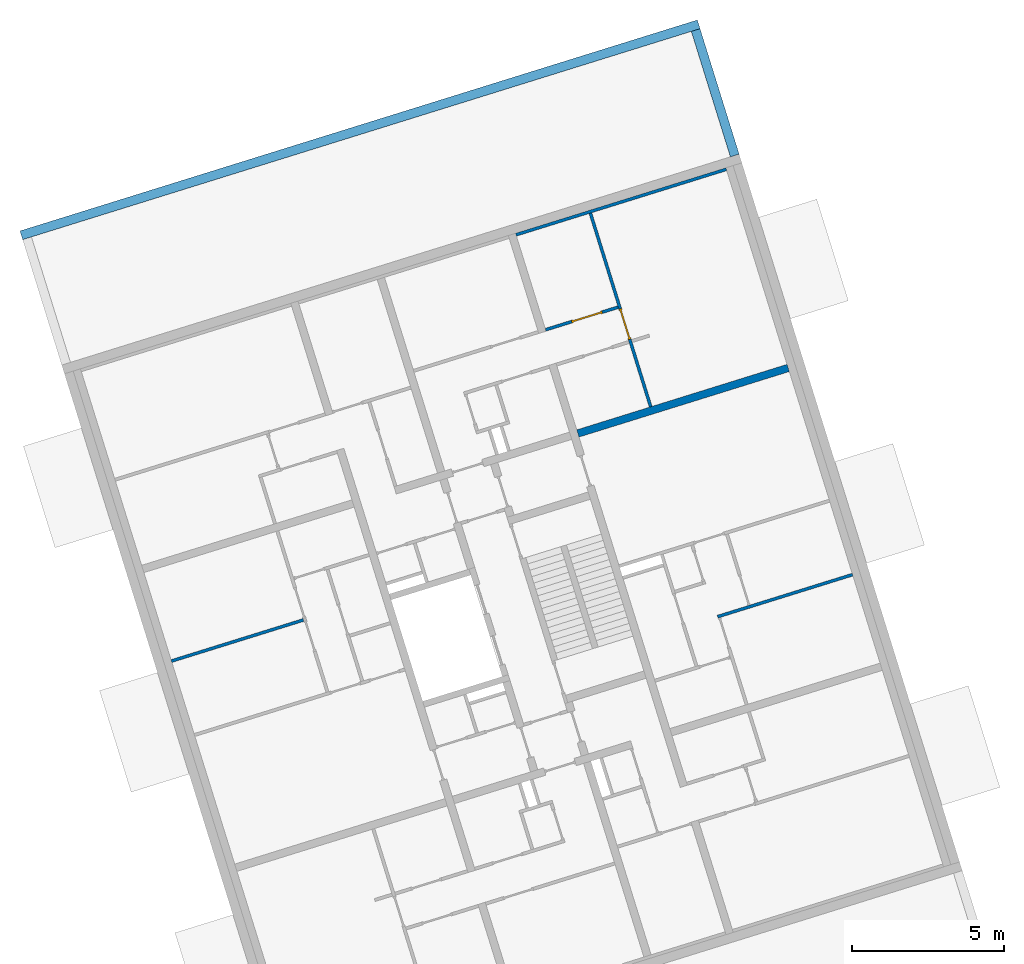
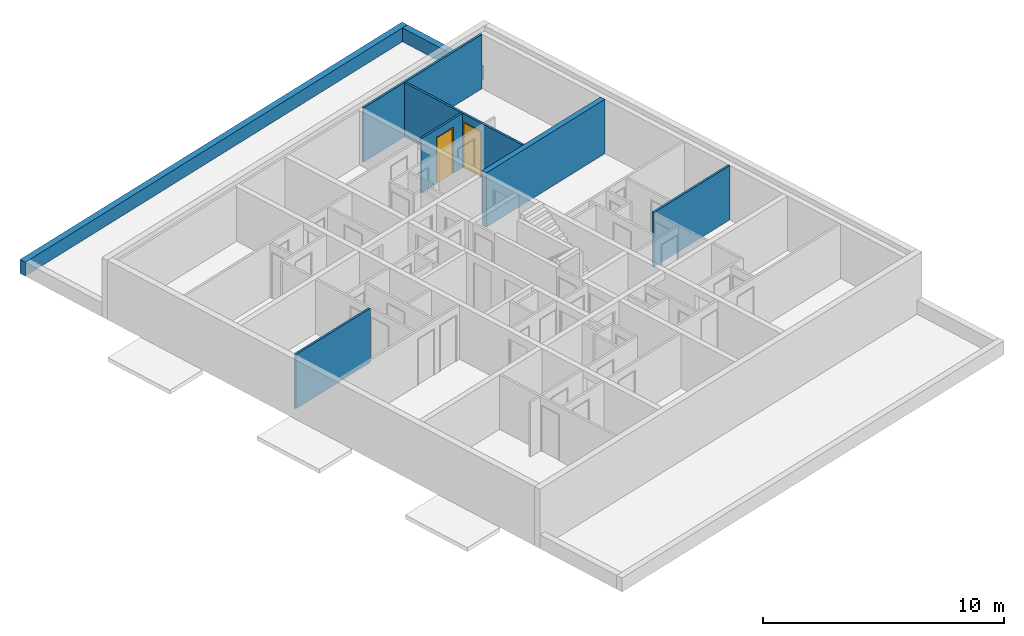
# One storey, part 7 of 9: 8 walls, 2 doors, 5 openings.
"""IFC4 building model written with IfcOpenShell, lengths in metres."""

import ifcopenshell
import ifcopenshell.guid

model = None  # the IFC model being written
_history = None  # IfcOwnerHistory: only IFC2X3 demands one
_inside = {}  # id of a spatial element -> (the spatial element, [elements in it])
_under = {}  # id of a project, library or spatial element -> (it, [spatial elements below it])
_declared = {}  # id of a project -> (the project, [libraries it declares])
_typed = {}  # id of a type object -> (the type object, [elements of that type])
_made_of = {}  # id of a material, layer set ... -> (it, [elements and type objects made of it])


def new_model(schema):
    """Start an empty IFC model of exactly this schema.

    Asked for "IFC4X3", IfcOpenShell would pick the latest addendum, in which some entities
    have other attributes; the version numbers below select the first issue.
    IFC2X3 requires an IfcOwnerHistory on every rooted entity: one is made here for all.
    """
    global model, _history
    if schema == "IFC4X3":
        model = ifcopenshell.file(schema_version=(4, 3, 0, 0))
    else:
        model = ifcopenshell.file(schema=schema)
    _inside.clear()
    _under.clear()
    _declared.clear()
    _typed.clear()
    _made_of.clear()
    _history = None
    if model.schema == "IFC2X3":
        org = make("IfcOrganization", Name="unknown")
        user = make(
            "IfcPersonAndOrganization",
            ThePerson=make("IfcPerson", FamilyName="unknown"),
            TheOrganization=org,
        )
        app = make(
            "IfcApplication",
            ApplicationDeveloper=org,
            Version="unknown",
            ApplicationFullName="unknown",
            ApplicationIdentifier="unknown",
        )
        _history = make(
            "IfcOwnerHistory",
            OwningUser=user,
            OwningApplication=app,
            ChangeAction="ADDED",
            CreationDate=0,
        )
    return model


def make(cls, **values):
    """One entity of the class cls with the attributes given. An attribute that is None is left unset."""
    return model.create_entity(
        cls, **{name: value for name, value in values.items() if value is not None}
    )


def entity(cls, *values):
    """Any entity or typed value of the class cls, its attributes in the order of the schema. None: left unset."""
    e = model.create_entity(cls)
    for i, value in enumerate(values):
        if value is not None:
            e[i] = value
    return e


def rooted(cls, **values):
    """An entity with a GlobalId (a new one), such as an element, a storey or a relation."""
    return make(cls, GlobalId=ifcopenshell.guid.new(), OwnerHistory=_history, **values)


def si_unit(unit_type, name, prefix=None):
    """IfcSIUnit, for example si_unit("LENGTHUNIT", "METRE", prefix="MILLI")."""
    return make("IfcSIUnit", UnitType=unit_type, Prefix=prefix, Name=name)


def converted_unit(unit_type, name, factor, base, dimensions=None, offset=None):
    """IfcConversionBasedUnit, such as the inch: factor (a typed value) times the base unit."""
    return make(
        "IfcConversionBasedUnit"
        if offset is None
        else "IfcConversionBasedUnitWithOffset",
        ConversionOffset=offset,
        Dimensions=None
        if dimensions is None
        else entity("IfcDimensionalExponents", *dimensions),
        UnitType=unit_type,
        Name=name,
        ConversionFactor=make(
            "IfcMeasureWithUnit", ValueComponent=factor, UnitComponent=base
        ),
    )


def assignment(units):
    """IfcUnitAssignment: the units of a project."""
    return None if units is None else make("IfcUnitAssignment", Units=units)


def point(xyz):
    """IfcCartesianPoint."""
    return None if xyz is None else make("IfcCartesianPoint", Coordinates=xyz)


def direction(xyz):
    """IfcDirection."""
    return None if xyz is None else make("IfcDirection", DirectionRatios=xyz)


def frame(location, z_axis=None, x_axis=None):
    """IfcAxis2Placement3D, a coordinate frame: its origin and axes. An axis left out is left unset."""
    return make(
        "IfcAxis2Placement3D",
        Location=point(location),
        Axis=direction(z_axis),
        RefDirection=direction(x_axis),
    )


def origin():
    """The frame at (0, 0, 0) with its axes left unset."""
    return frame((0.0, 0.0, 0.0))


def place(relative_to, where):
    """IfcLocalPlacement: puts the frame where relative to a parent placement (None: the world)."""
    return make(
        "IfcLocalPlacement", PlacementRelTo=relative_to, RelativePlacement=where
    )


def context(
    kind, dimensions, precision=None, world=None, true_north=None, identifier=None
):
    """IfcGeometricRepresentationContext, for example the 3D "Model" context."""
    return make(
        "IfcGeometricRepresentationContext",
        ContextIdentifier=identifier,
        ContextType=kind,
        CoordinateSpaceDimension=dimensions,
        Precision=precision,
        WorldCoordinateSystem=world,
        TrueNorth=true_north,
    )


def subcontext(parent, identifier, kind, view, scale=None):
    """IfcGeometricRepresentationSubContext, for example "Body" below "Model"."""
    return make(
        "IfcGeometricRepresentationSubContext",
        ContextIdentifier=identifier,
        ContextType=kind,
        ParentContext=parent,
        TargetScale=scale,
        TargetView=view,
    )


def project(units=None, contexts=None):
    """IfcProject with its units and contexts."""
    return rooted(
        "IfcProject",
        Name="project",
        RepresentationContexts=contexts,
        UnitsInContext=assignment(units),
    )


def spatial(cls, under=None, at=None, **own):
    """A site, building, storey or space (cls), placed at a placement, below another one or the project."""
    s = rooted(cls, ObjectPlacement=at, **own)
    if under is not None:
        _under.setdefault(under.id(), (under, []))[1].append(s)
    return s


def point_list(points):
    """IfcCartesianPointList2D or 3D."""
    cls = (
        "IfcCartesianPointList2D" if len(points[0]) == 2 else "IfcCartesianPointList3D"
    )
    return make(cls, CoordList=points)


def indexed_curve(points, segments=None, self_intersect=None):
    """IfcIndexedPolyCurve: lines and arcs through numbered points (the first is 1)."""
    return make(
        "IfcIndexedPolyCurve",
        Points=point_list(points),
        Segments=segments,
        SelfIntersect=self_intersect,
    )


def outline(outer, holes=None, kind="AREA"):
    """IfcArbitraryClosedProfileDef: a profile drawn as a closed curve; with holes, ...WithVoids."""
    if holes is None:
        return make("IfcArbitraryClosedProfileDef", ProfileType=kind, OuterCurve=outer)
    return make(
        "IfcArbitraryProfileDefWithVoids",
        ProfileType=kind,
        OuterCurve=outer,
        InnerCurves=holes,
    )


def extrude(swept, where, along, depth):
    """IfcExtrudedAreaSolid: the profile swept, set in the frame where, extruded along a direction by depth."""
    return make(
        "IfcExtrudedAreaSolid",
        SweptArea=swept,
        Position=where,
        ExtrudedDirection=direction(along),
        Depth=depth,
    )


def polygons(points, faces, closed=None, point_numbers=None):
    """IfcPolygonalFaceSet: a face is its outer loop, then its inner loops; points numbered from 1."""
    made = []
    for loops in faces:
        if len(loops) == 1:
            made.append(make("IfcIndexedPolygonalFace", CoordIndex=loops[0]))
        else:
            made.append(
                make(
                    "IfcIndexedPolygonalFaceWithVoids",
                    CoordIndex=loops[0],
                    InnerCoordIndices=loops[1:],
                )
            )
    return make(
        "IfcPolygonalFaceSet",
        Coordinates=point_list(points),
        Closed=closed,
        Faces=made,
        PnIndex=point_numbers,
    )


def shape(context_of_items, identifier, shape_type, items):
    """IfcShapeRepresentation: the items that make up one representation, for example the "Body"."""
    return make(
        "IfcShapeRepresentation",
        ContextOfItems=context_of_items,
        RepresentationIdentifier=identifier,
        RepresentationType=shape_type,
        Items=items,
    )


def source(mapping_origin, context_of_items, identifier, shape_type, items):
    """IfcRepresentationMap: a shape defined once, which mapped items show again and again."""
    return make(
        "IfcRepresentationMap",
        MappingOrigin=mapping_origin,
        MappedRepresentation=shape(context_of_items, identifier, shape_type, items),
    )


def transform(
    local_origin,
    x_axis=None,
    y_axis=None,
    z_axis=None,
    scale=None,
    scale2=None,
    scale3=None,
    uniform=True,
):
    """IfcCartesianTransformationOperator3D, or its non-uniform kind. x_axis, y_axis, z_axis: its Axis1, 2, 3."""
    if uniform:
        return make(
            "IfcCartesianTransformationOperator3D",
            Axis1=direction(x_axis),
            Axis2=direction(y_axis),
            LocalOrigin=point(local_origin),
            Scale=scale,
            Axis3=direction(z_axis),
        )
    return make(
        "IfcCartesianTransformationOperator3DnonUniform",
        Axis1=direction(x_axis),
        Axis2=direction(y_axis),
        LocalOrigin=point(local_origin),
        Scale=scale,
        Axis3=direction(z_axis),
        Scale2=scale2,
        Scale3=scale3,
    )


def mapped(mapping_source, mapping_target):
    """IfcMappedItem: shows the shape of a source again, moved by a transform."""
    return make(
        "IfcMappedItem", MappingSource=mapping_source, MappingTarget=mapping_target
    )


def material(Name=None, Category=None):
    """IfcMaterial."""
    return make("IfcMaterial", Name=Name, Category=Category)


def constituent(of_material, Name=None, Category=None, fraction=None):
    """IfcMaterialConstituent: one of the materials an element consists of."""
    return make(
        "IfcMaterialConstituent",
        Name=Name,
        Material=of_material,
        Fraction=fraction,
        Category=Category,
    )


def constituent_set(constituents=None, Name=None):
    """IfcMaterialConstituentSet."""
    return make(
        "IfcMaterialConstituentSet", Name=Name, MaterialConstituents=constituents
    )


def made_of(thing, what):
    """Note that an element or type object is made of a material, layer set ...; save() writes the relation."""
    if what is not None:
        _made_of.setdefault(what.id(), (what, []))[1].append(thing)
    return thing


def type_object(cls, material=None, **own):
    """A type object (cls), such as IfcWallType, which elements share."""
    return made_of(rooted(cls, **own), material)


def type_shapes(of_type, sources):
    """Give a type object the sources (RepresentationMaps) that its elements show as mapped items."""
    of_type.RepresentationMaps = sources


def element(
    cls,
    number,
    at=None,
    inside=None,
    cuts=None,
    type_object=None,
    material=None,
    context=None,
    identifier="Body",
    shape_type=None,
    held_by="IfcProductDefinitionShape",
    body=None,
    shapes=None,
    **own,
):
    """One element of the class cls, such as IfcWall. Its Tag is "e" and its number.

    at: its placement. inside: the storey or other place that contains it. cuts: it is an
    opening in that element (IfcRelVoidsElement). A single representation is given by context,
    identifier, shape_type and body (its items); several are given by shapes. held_by: the class
    of the entity that holds the representations. save() writes the other relations.
    """
    e = rooted(cls, Tag="e%d" % number, ObjectPlacement=at, **own)
    if body is not None:
        shapes = [shape(context, identifier, shape_type, body)]
    if shapes is not None:
        e.Representation = make(held_by, Representations=shapes)
    if inside is not None:
        _inside.setdefault(inside.id(), (inside, []))[1].append(e)
    if cuts is not None:
        rooted(
            "IfcRelVoidsElement", RelatingBuildingElement=cuts, RelatedOpeningElement=e
        )
    if type_object is not None:
        _typed.setdefault(type_object.id(), (type_object, []))[1].append(e)
    return made_of(e, material)


def fill(opening, filler):
    """IfcRelFillsElement: the door or window that sits in an opening."""
    return rooted(
        "IfcRelFillsElement",
        RelatingOpeningElement=opening,
        RelatedBuildingElement=filler,
    )


def aggregate(whole, parts):
    """IfcRelAggregates: a whole, such as a stair, and the parts it consists of."""
    return rooted("IfcRelAggregates", RelatingObject=whole, RelatedObjects=parts)


def save(model, path):
    """Write the relations noted so far, then the file.

    IfcRelAggregates (storeys below a building ...), IfcRelContainedInSpatialStructure (elements
    in a storey), IfcRelDefinesByType, IfcRelAssociatesMaterial and IfcRelDeclares: one each for
    every whole, place, type object, material and project.
    """
    for whole, parts in _under.values():
        aggregate(whole, parts)
    for where, things in _inside.values():
        rooted(
            "IfcRelContainedInSpatialStructure",
            RelatedElements=things,
            RelatingStructure=where,
        )
    for kind, things in _typed.values():
        rooted("IfcRelDefinesByType", RelatedObjects=things, RelatingType=kind)
    for what, things in _made_of.values():
        rooted("IfcRelAssociatesMaterial", RelatedObjects=things, RelatingMaterial=what)
    for by, libraries in _declared.values():
        rooted("IfcRelDeclares", RelatingContext=by, RelatedDefinitions=libraries)
    model.write(path)


model = new_model("IFC4")

# Units and contexts
model_context = context("Model", 3, precision=1e-05, world=origin(), true_north=direction((6.12323399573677e-17, 1.0)))
body_context = subcontext(model_context, "Body", "Model", "MODEL_VIEW")
ifc_project = project(units=[si_unit("LENGTHUNIT", "METRE"), si_unit("AREAUNIT", "SQUARE_METRE"), si_unit("VOLUMEUNIT", "CUBIC_METRE"), converted_unit("PLANEANGLEUNIT", "DEGREE", entity("IfcPlaneAngleMeasure", 0.0174532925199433), si_unit("PLANEANGLEUNIT", "RADIAN"), dimensions=[0, 0, 0, 0, 0, 0, 0])], contexts=[model_context])

# Site, building, storey
site_placement = place(None, frame((13.1347999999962, 11.9886000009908, 0.0), z_axis=(0.0, 0.0, 1.0), x_axis=(0.954770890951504, 0.297342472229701, 0.0)))
site = spatial("IfcSite", under=ifc_project, at=site_placement, Name="Schiehaven", CompositionType="ELEMENT")
building_placement = place(site_placement, origin())
building = spatial("IfcBuilding", under=site, at=building_placement, Name="VORM huis", CompositionType="ELEMENT")
storey_placement = place(building_placement, frame((0.0, 0.0, 6.9)))
storey = spatial("IfcBuildingStorey", under=building, at=storey_placement, Name="02 tweede verdieping", CompositionType="ELEMENT", Elevation=6.9)

# Walls
ifc_material_1 = material(Name="ntb_ntb_ntb", Category="Miscellaneous")
wall_type_1 = type_object("IfcWallType", Name="Basic Wall:21_WA_gevel_binnenspouwwand 100mm_gen", PredefinedType="STANDARD")
wall_1_placement = place(storey_placement, frame((20.1250000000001, 29.05, 0.0)))
element("IfcWall", 1, at=wall_1_placement, inside=storey, type_object=wall_type_1, material=ifc_material_1, Name="Binnenspouwblad", ObjectType="Wand", PredefinedType="NOTDEFINED", context=body_context, shape_type="SweptSolid", body=[
    extrude(outline(indexed_curve([(7.24999999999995, 0.0500000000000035), (-1.62265042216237e-16, 0.0500000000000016), (1.62265042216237e-16, -0.0500000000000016), (7.24999999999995, -0.0499999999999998), (7.24999999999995, 0.0500000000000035)], self_intersect=False)), origin(), (0.0, 0.0, 1.0), 2.75),
])
wall_type_2 = type_object("IfcWallType", Name="Basic Wall: 300mm_gen", PredefinedType="STANDARD")
wall_2_placement = place(storey_placement, frame((4.57500000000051, 33.8749999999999, 0.0)))
element("IfcWall", 2, at=wall_2_placement, inside=storey, type_object=wall_type_2, material=ifc_material_1, Name="Gevelwand", ObjectType="Wand", PredefinedType="NOTDEFINED", context=body_context, shape_type="SweptSolid", body=[
    extrude(outline(indexed_curve([(23.3499999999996, 0.149999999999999), (6.5332653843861e-17, 0.150000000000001), (-6.5332653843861e-17, -0.150000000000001), (23.3499999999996, -0.150000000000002), (23.3499999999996, 0.149999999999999)], self_intersect=False)), origin(), (0.0, 0.0, 1.0), 0.700000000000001),
])
wall_3_placement = place(storey_placement, frame((27.7750000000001, 33.7249999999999, 0.0), z_axis=(0.0, 0.0, 1.0), x_axis=(0.0, -1.0, 0.0)))
element("IfcWall", 3, at=wall_3_placement, inside=storey, type_object=wall_type_2, material=ifc_material_1, Name="Gevelwand", ObjectType="Wand", PredefinedType="NOTDEFINED", context=body_context, shape_type="SweptSolid", body=[
    extrude(outline(indexed_curve([(4.32499999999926, 0.150000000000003), (3.67232742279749e-16, 0.150000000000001), (-3.67232742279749e-16, -0.150000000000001), (4.32499999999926, -0.149999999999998), (4.32499999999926, 0.150000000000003)], self_intersect=False)), origin(), (0.0, 0.0, 1.0), 0.700000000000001),
])
wall_type_3 = type_object("IfcWallType", Name="Basic Wall:22_WA_afbouw_binnenwand 250mm_gen", PredefinedType="STANDARD")
wall_4_placement = place(storey_placement, frame((20.1250000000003, 22.1999999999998, 0.0)))
element("IfcWall", 4, at=wall_4_placement, inside=storey, type_object=wall_type_3, material=ifc_material_1, Name="Binnenwand", ObjectType="Wand", PredefinedType="NOTDEFINED", context=body_context, shape_type="SweptSolid", body=[
    extrude(outline(indexed_curve([(7.24999999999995, 0.125000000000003), (-1.80881749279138e-15, 0.125000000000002), (1.80881749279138e-15, -0.125000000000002), (7.24999999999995, -0.125000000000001), (7.24999999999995, 0.125000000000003)], self_intersect=False)), origin(), (0.0, 0.0, 1.0), 2.75),
])

# Wall, opening, door
wall_type_4 = type_object("IfcWallType", Name="Basic Wall:22_WA_afbouw_binnenwand 100mm_gen", PredefinedType="STANDARD")
wall_5_placement = place(storey_placement, frame((20.1250000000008, 25.7750000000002, 0.0)))
wall_5 = element("IfcWall", 5, at=wall_5_placement, inside=storey, type_object=wall_type_4, material=ifc_material_1, Name="Binnenwand", ObjectType="Wand", PredefinedType="NOTDEFINED", context=body_context, shape_type="Tessellation", body=[
    polygons([(-4.45664919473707e-16, -0.0499999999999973, 1.08286712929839e-15), (0.899999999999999, -0.049999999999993, 1.08286712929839e-15), (0.899999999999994, -0.049999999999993, 2.34999999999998), (1.95, -0.0499999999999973, 2.34999999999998), (1.95, -0.0499999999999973, 1.08286712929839e-15), (2.5, -0.049999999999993, 1.08286712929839e-15), (2.5, -0.049999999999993, 2.75), (-4.45664919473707e-16, -0.0499999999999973, 2.75), (0.899999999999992, 0.050000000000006, 2.34999999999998), (0.899999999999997, 0.050000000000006, 1.08286712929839e-15), (-2.31636917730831e-15, 0.0500000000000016, 1.08286712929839e-15), (-2.31636917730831e-15, 0.0500000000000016, 2.75), (2.50000000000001, 0.050000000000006, 2.75), (2.50000000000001, 0.050000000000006, 1.08286712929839e-15), (1.95, 0.0500000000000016, 1.08286712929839e-15), (1.95, 0.0500000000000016, 2.34999999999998)], [[[1, 2, 3, 4, 5, 6, 7, 8]], [[9, 10, 11, 12, 13, 14, 15, 16]], [[11, 10, 2, 1]], [[8, 7, 13, 12]], [[1, 8, 12, 11]], [[5, 4, 16, 15]], [[3, 2, 10, 9]], [[4, 3, 9, 16]], [[7, 6, 14, 13]], [[15, 14, 6, 5]]], closed=True),
])
opening_1_placement = place(wall_5_placement, frame((1.95, 0.049999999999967, 0.0)))
opening_1 = element("IfcOpeningElement", 6, at=opening_1_placement, cuts=wall_5, Name="Binnendeur", PredefinedType="OPENING", context=body_context, shape_type="SweptSolid", body=[
    extrude(outline(indexed_curve([(2.34999999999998, 0.0), (2.34999999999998, 1.05), (0.0, 1.05), (0.0, 0.0), (2.34999999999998, 0.0)], self_intersect=False)), frame((0.0, 0.0, 0.0), z_axis=(0.0, -1.0, 0.0), x_axis=(0.0, 0.0, 1.0)), (0.0, 0.0, 1.0), 0.1),
])
ifc_material_2 = material(Name="PD_a_binnenwandopeningen", Category="Miscellaneous")
ifc_constituent_1 = constituent(ifc_material_2, Name="PD_a_binnenwandopeningen", Category="Miscellaneous")
ifc_material_3 = material(Name="metaal_aluminium_ntb", Category="Miscellaneous")
ifc_constituent_2 = constituent(ifc_material_3, Name="metaal_aluminium_ntb", Category="Miscellaneous")
ifc_constituent_set_1 = constituent_set(constituents=[ifc_constituent_1, ifc_constituent_2])
door_type = type_object("IfcDoorType", Name="32_DO_binnendeur enkel:binnendeur", OperationType="REVOLVING", PredefinedType="DOOR")
shared_shape_1 = source(origin(), body_context, "Body", "SweptSolid", [
    extrude(outline(indexed_curve([(0.475, -1.16249999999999), (0.525, -1.16249999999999), (0.525, 1.18749999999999), (-0.525, 1.18749999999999), (-0.525, -1.16249999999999), (-0.475, -1.16249999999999), (-0.475, 1.13749999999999), (0.475, 1.13749999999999), (0.475, -1.16249999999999)], self_intersect=False)), frame((0.525000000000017, 0.100000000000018, 1.16249999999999), z_axis=(0.0, -1.0, 0.0), x_axis=(1.0, 0.0, 0.0)), (0.0, 0.0, 1.0), 0.1),
    extrude(outline(indexed_curve([(-0.475, -0.025), (0.475, -0.025), (0.475, 0.025), (-0.475, 0.025), (-0.475, -0.025)], self_intersect=False)), frame((0.525000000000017, 0.0499999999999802, 0.0)), (0.0, 0.0, 1.0), 2.29999999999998),
])
door_1_placement = place(opening_1_placement, frame((0.0, 0.0, 0.0), z_axis=(0.0, 0.0, 1.0), x_axis=(-1.0, 0.0, 0.0)))
door_1 = element("IfcDoor", 7, at=door_1_placement, inside=storey, type_object=door_type, material=ifc_constituent_set_1, Name="Binnendeur", ObjectType="Deur", OperationType="REVOLVING", OverallHeight=2.34999999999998, OverallWidth=1.05, PredefinedType="DOOR", context=body_context, shape_type="MappedRepresentation", body=[
    mapped(shared_shape_1, transform((0.0, 0.0, 0.0), scale=1.0)),
])
fill(opening_1, door_1)

wall_6_placement = place(storey_placement, frame((22.6750000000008, 22.3250000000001, 0.0), z_axis=(0.0, 0.0, 1.0), x_axis=(0.0, 1.0, 0.0)))
wall_6 = element("IfcWall", 8, at=wall_6_placement, inside=storey, type_object=wall_type_4, material=ifc_material_1, Name="Binnenwand", ObjectType="Wand", PredefinedType="NOTDEFINED", context=body_context, shape_type="Tessellation", body=[
    polygons([(4.33146851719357e-15, -0.0499999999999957, 1.08286712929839e-15), (2.2, -0.0499999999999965, 0.0), (2.3, -0.0499999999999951, 0.0), (2.32500000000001, -0.0499999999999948, 1.08286712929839e-15), (2.32500000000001, -0.0499999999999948, 2.34999999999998), (3.37500000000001, -0.0499999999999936, 2.34999999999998), (3.37500000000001, -0.0499999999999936, 1.08286712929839e-15), (6.67499999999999, -0.0499999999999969, 1.08286712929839e-15), (6.67499999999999, -0.0499999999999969, 2.75), (2.3, -0.0499999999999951, 2.75), (2.2, -0.0499999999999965, 2.75), (4.33146851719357e-15, -0.0499999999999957, 2.75), (2.325, 0.0500000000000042, 2.34999999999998), (2.325, 0.0500000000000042, 1.08286712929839e-15), (2.3, 0.0500000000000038, 0.0), (2.2, 0.0500000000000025, 0.0), (0.0, 0.0500000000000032, 1.08286712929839e-15), (0.0, 0.0500000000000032, 2.75), (2.2, 0.0500000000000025, 2.75), (2.3, 0.0500000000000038, 2.75), (3.4, 0.0500000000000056, 2.75), (3.5, 0.0500000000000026, 2.75), (6.67499999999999, 0.050000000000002, 2.75), (6.67499999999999, 0.050000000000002, 1.08286712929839e-15), (3.5, 0.0500000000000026, 0.0), (3.4, 0.0500000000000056, 0.0), (3.37500000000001, 0.0500000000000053, 1.08286712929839e-15), (3.37500000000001, 0.0500000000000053, 2.34999999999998)], [[[1, 2, 3, 4, 5, 6, 7, 8, 9, 10, 11, 12]], [[13, 14, 15, 16, 17, 18, 19, 20, 21, 22, 23, 24, 25, 26, 27, 28]], [[17, 16, 15, 14, 4, 3, 2, 1]], [[9, 8, 24, 23]], [[12, 11, 10, 9, 23, 22, 21, 20, 19, 18]], [[1, 12, 18, 17]], [[7, 6, 28, 27]], [[5, 4, 14, 13]], [[6, 5, 13, 28]], [[27, 26, 25, 24, 8, 7]]], closed=True),
])
opening_2_placement = place(wall_6_placement, frame((2.325, -0.0500000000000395, 0.0)))
opening_2 = element("IfcOpeningElement", 9, at=opening_2_placement, cuts=wall_6, Name="Binnendeur", PredefinedType="OPENING", context=body_context, shape_type="SweptSolid", body=[
    extrude(outline(indexed_curve([(2.34999999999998, 1.05), (0.0, 1.05), (0.0, -4.30326930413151e-29), (2.34999999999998, -4.30326930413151e-29), (2.34999999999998, 1.05)], self_intersect=False)), frame((0.0, 0.0, 0.0), z_axis=(0.0, 1.0, 0.0), x_axis=(0.0, 0.0, 1.0)), (0.0, 0.0, 1.0), 0.1),
])
ifc_constituent_3 = constituent(ifc_material_2, Name="PD_a_binnenwandopeningen", Category="Miscellaneous")
ifc_constituent_4 = constituent(ifc_material_3, Name="metaal_aluminium_ntb", Category="Miscellaneous")
ifc_constituent_set_2 = constituent_set(constituents=[ifc_constituent_3, ifc_constituent_4])
shared_shape_2 = source(origin(), body_context, "Body", "SweptSolid", [
    extrude(outline(indexed_curve([(-1.16249999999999, -0.525000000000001), (1.18749999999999, -0.525), (1.18749999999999, 0.525), (-1.16249999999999, 0.525), (-1.16249999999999, 0.475), (1.13749999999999, 0.475), (1.13749999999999, -0.475), (-1.16249999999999, -0.475), (-1.16249999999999, -0.525000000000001)], self_intersect=False)), frame((0.525000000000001, 0.0, 1.16249999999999), z_axis=(0.0, 1.0, 0.0), x_axis=(0.0, 0.0, 1.0)), (0.0, 0.0, 1.0), 0.1),
    extrude(outline(indexed_curve([(-0.025, -0.475), (0.025, -0.475), (0.025, 0.475), (-0.025, 0.475), (-0.025, -0.475)], self_intersect=False)), frame((0.525000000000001, 0.0499999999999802, 0.0), z_axis=(0.0, 0.0, 1.0), x_axis=(0.0, 1.0, 0.0)), (0.0, 0.0, 1.0), 2.29999999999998),
])
type_shapes(door_type, [shared_shape_2])
door_2_placement = place(opening_2_placement, origin())
door_2 = element("IfcDoor", 10, at=door_2_placement, inside=storey, type_object=door_type, material=ifc_constituent_set_2, Name="Binnendeur", ObjectType="Deur", OperationType="REVOLVING", OverallHeight=2.34999999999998, OverallWidth=1.05, PredefinedType="DOOR", context=body_context, shape_type="MappedRepresentation", body=[
    mapped(shared_shape_2, transform((0.0, 0.0, 0.0), scale=1.0)),
])
fill(opening_2, door_2)

# Wall, openings
wall_7_placement = place(storey_placement, frame((22.7250000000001, 15.075, 0.0)))
wall_7 = element("IfcWall", 11, at=wall_7_placement, inside=storey, type_object=wall_type_4, material=ifc_material_1, Name="Binnenwand", ObjectType="Wand", PredefinedType="NOTDEFINED", context=body_context, shape_type="Tessellation", body=[
    polygons([(2.32806113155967e-16, -0.0500000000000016, 1.08286712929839e-15), (4.65000000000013, -0.0500000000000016, 1.08286712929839e-15), (4.65000000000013, -0.0500000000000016, 2.75), (0.0999999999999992, -0.0500000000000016, 2.75), (2.32806113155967e-16, -0.0500000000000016, 2.75), (2.32806113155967e-16, -0.0500000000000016, 2.34999999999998), (-1.98070570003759e-16, 0.0499999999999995, 1.08286712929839e-15), (-1.98070570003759e-16, 0.0499999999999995, 2.75), (1.05, 0.0499999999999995, 2.75), (1.15, 0.0499999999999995, 2.75), (4.65000000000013, 0.0499999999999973, 2.75), (4.65000000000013, 0.0499999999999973, 1.08286712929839e-15)], [[[1, 2, 3, 4, 5, 6]], [[7, 8, 9, 10, 11, 12]], [[2, 1, 7, 12]], [[3, 2, 12, 11]], [[5, 4, 3, 11, 10, 9, 8]], [[1, 6, 5, 8, 7]]], closed=True),
])
opening_3_placement = place(wall_7_placement, origin())
element("IfcOpeningElement", 12, at=opening_3_placement, cuts=wall_7, Name="Binnendeur", PredefinedType="OPENING", context=body_context, shape_type="SweptSolid", body=[
    extrude(outline(indexed_curve([(-0.0499999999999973, -1.17499999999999), (0.0500000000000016, -1.17499999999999), (0.0500000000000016, 1.17499999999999), (-0.0499999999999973, 1.17499999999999), (-0.0499999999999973, -1.17499999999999)], self_intersect=False)), frame((0.050000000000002, -1.1, 1.17499999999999), z_axis=(0.0, 1.0, 0.0), x_axis=(1.0, 0.0, 0.0)), (0.0, 0.0, 1.0), 1.05),
])
opening_4_placement = place(wall_7_placement, origin())
element("IfcOpeningElement", 13, at=opening_4_placement, cuts=wall_7, Name="Binnendeur", PredefinedType="OPENING", context=body_context, shape_type="SweptSolid", body=[
    extrude(outline(indexed_curve([(-0.0500000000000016, -1.17499999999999), (0.0499999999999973, -1.17499999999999), (0.0499999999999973, 1.17499999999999), (-0.0500000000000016, 1.17499999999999), (-0.0500000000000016, -1.17499999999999)], self_intersect=False)), frame((1.1, 0.0500000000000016, 1.17499999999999), z_axis=(0.0, 1.0, 0.0), x_axis=(1.0, 0.0, 0.0)), (0.0, 0.0, 1.0), 1.05),
])

# Wall, opening
wall_8_placement = place(storey_placement, frame((9.6750000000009, 19.0250000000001, 0.0), z_axis=(0.0, 0.0, 1.0), x_axis=(-1.0, 0.0, 0.0)))
wall_8 = element("IfcWall", 14, at=wall_8_placement, inside=storey, type_object=wall_type_4, material=ifc_material_1, Name="Binnenwand", ObjectType="Wand", PredefinedType="NOTDEFINED", context=body_context, shape_type="Tessellation", body=[
    polygons([(3.01916530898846e-16, -0.0500000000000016, 1.08286712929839e-15), (4.55000000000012, -0.0500000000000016, 1.08286712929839e-15), (4.55000000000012, -0.0500000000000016, 2.75), (3.01916530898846e-16, -0.0500000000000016, 2.75), (3.01916530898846e-16, -0.0500000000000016, 2.34999999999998), (6.73589386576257e-16, 0.0500000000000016, 1.08286712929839e-15), (6.73589386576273e-16, 0.0499999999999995, 2.34999999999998), (6.73589386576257e-16, 0.0500000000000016, 2.75), (4.55000000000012, 0.0499999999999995, 2.75), (4.55000000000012, 0.0499999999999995, 1.08286712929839e-15)], [[[1, 2, 3, 4, 5]], [[6, 7, 8, 9, 10]], [[2, 1, 6, 10]], [[3, 2, 10, 9]], [[4, 3, 9, 8]], [[1, 5, 4, 8, 7, 6]]], closed=True),
])
opening_5_placement = place(wall_8_placement, origin())
element("IfcOpeningElement", 15, at=opening_5_placement, cuts=wall_8, Name="Binnendeur", PredefinedType="OPENING", context=body_context, shape_type="SweptSolid", body=[
    extrude(outline(indexed_curve([(-0.0499999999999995, -1.17499999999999), (0.0499999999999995, -1.17499999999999), (0.0499999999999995, 1.17499999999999), (-0.0499999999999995, 1.17499999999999), (-0.0499999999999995, -1.17499999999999)], self_intersect=False)), frame((-0.049999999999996, -1.1, 1.17499999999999), z_axis=(0.0, 1.0, 0.0), x_axis=(1.0, 0.0, 0.0)), (0.0, 0.0, 1.0), 1.05),
])

save(model, "model.ifc")
